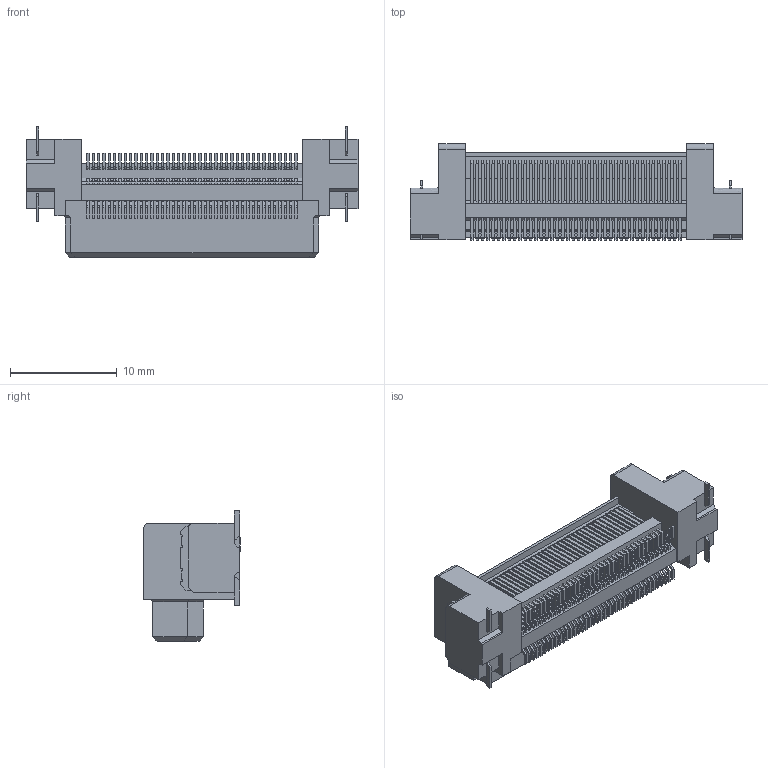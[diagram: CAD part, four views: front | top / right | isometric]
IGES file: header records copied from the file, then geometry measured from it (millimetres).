
Start section: Elysium IGES Interface
Global section: file name: 69HC:\Users\1314\Desktop\temp\回覧用-一時的\DTXX\80\P3D046_DT10-080L.igs; native system: Creo Elements/Direct Modeling 19.0F  14-Feb-2017; preprocessor: Creo Element/Direct IGES_3D V2.2; author: Unknown; organization: Unknown; date: 20170718.101738; units: millimetre
Bounding box: 31.12 x 9.05 x 12.2 mm (x, y, z)
Volume: 1306.5 mm3; surface area: 1924.5 mm2
Topology: 1 solids, 1 shells, 4734 faces, 13283 edges, 8632 vertices
Faces by surface type: bspline 4734
